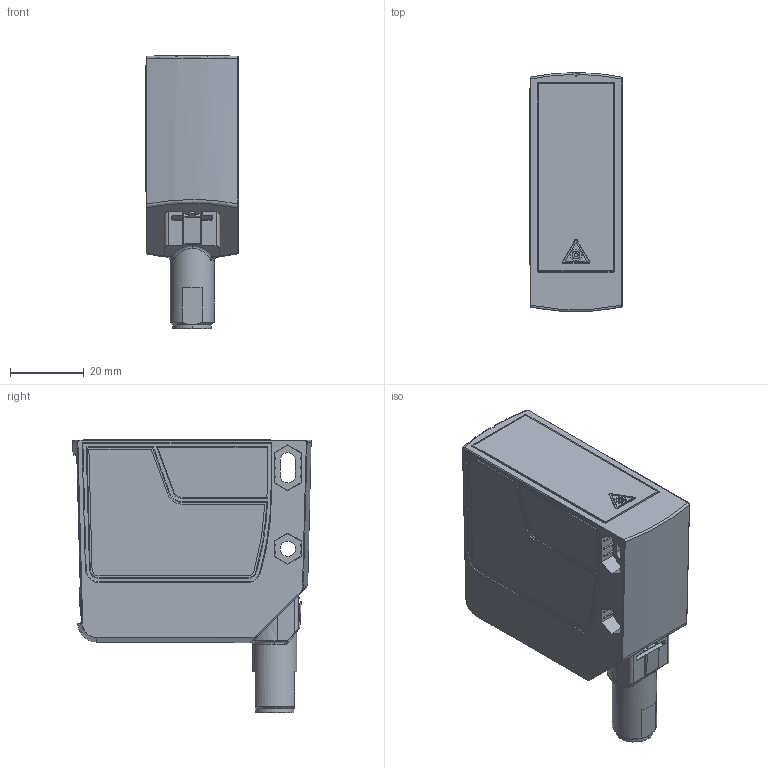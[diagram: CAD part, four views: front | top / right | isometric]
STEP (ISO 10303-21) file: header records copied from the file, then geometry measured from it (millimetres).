
FILE_DESCRIPTION(/* description */ (''),/* implementation_level */ '2;1');
FILE_NAME(/* name */ '3DCAD_ODS10_M12_plug_back.stp',/* time_stamp */ '2024-05-13T13:09:06+02:00',/* author */ ('CC2'),/* organization */ ('Leuze electronic'),/* preprocessor_version */ 'ST-DEVELOPER v19.4',/* originating_system */ 'SIEMENS PLM Software NX2306.1700',/* authorisation */ '');
FILE_SCHEMA (('AUTOMOTIVE_DESIGN { 1 0 10303 214 3 1 1 1 }'));
Length unit declared in the file: millimetre
Products named in the file (1): 17-120042_00_1-3DCAD_ODS10_M12_plug_back
Bounding box: 25.05 x 64.9 x 74.21 mm (x, y, z)
Volume: 82419.1 mm3; surface area: 16135.6 mm2
Topology: 1 solids, 3 shells, 1037 faces, 2756 edges, 1773 vertices
Faces by surface type: plane 510, cylinder 195, extrusion 156, bspline 80, cone 52, torus 21, sphere 13, revolution 10
Full cylindrical faces by diameter (mm): 1 x5, 4.2 x1, 9.5 x1, 12 x1
Entity records: 41111 total; most frequent: CARTESIAN_POINT 14371, ORIENTED_EDGE 5410, DIRECTION 4450, EDGE_CURVE 2705, VECTOR 1794, VERTEX_POINT 1753, LINE 1638, AXIS2_PLACEMENT_3D 1323
